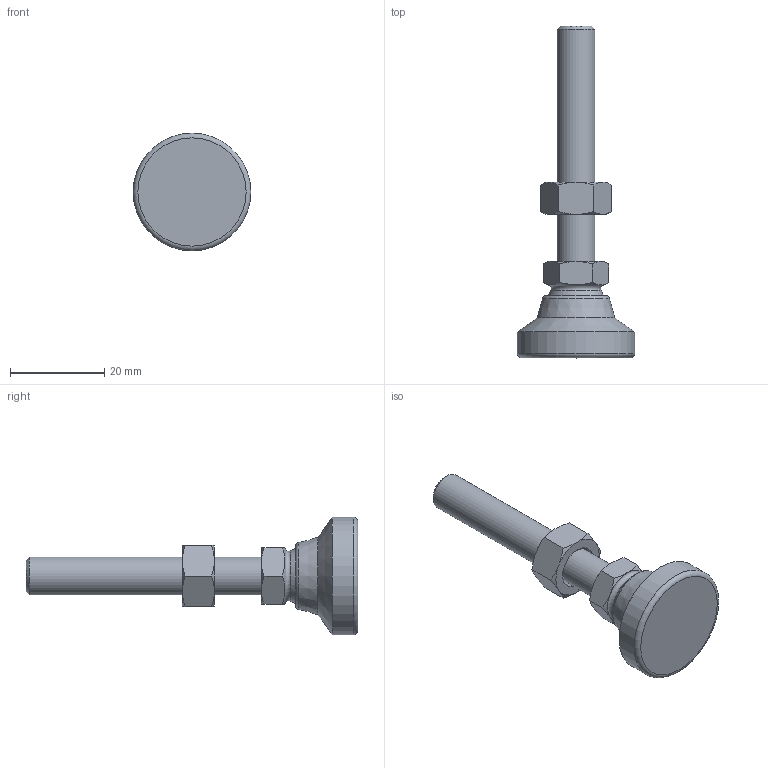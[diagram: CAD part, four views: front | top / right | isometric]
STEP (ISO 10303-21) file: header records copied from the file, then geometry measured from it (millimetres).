
FILE_DESCRIPTION( ( 'STEP AP214' ), ' ' );
FILE_NAME( 'O:/ganter_2015/teil_2/2_5/gn343_2/gn343_2_ks/Levelling foot with threaded stud GN 343.2-25-M8-50-KS-(0).stp', '2015-10-26T09:09:20', ( '' ), ( '' ), ' ', 'PARTsolutions', ' ' );
FILE_SCHEMA( ( 'AUTOMOTIVE_DESIGN { 1 0 10303 214 1 1 1 1 }' ) );
Length unit declared in the file: millimetre
Products named in the file (4): Levelling foot with threaded stud GN 343.2-25-M8-50-KS-(0); _Levelling foot with threaded stud GN 343.2-25-M8-50-KS-(0)_foot; _Gelenkfuss mit Schraube GN 343.2-25-M8-50-KS-(0)_screw; _GLevelling foot with threaded stud GN 343.2-25-M8-50-KS-(0)_nut
Assembly tree (3 placements, depth 2):
  Levelling foot with threaded stud GN 343.2-25-M8-50-KS-(0)
    _Levelling foot with threaded stud GN 343.2-25-M8-50-KS-(0)_foot
    _Gelenkfuss mit Schraube GN 343.2-25-M8-50-KS-(0)_screw
    _GLevelling foot with threaded stud GN 343.2-25-M8-50-KS-(0)_nut
Bounding box: 25 x 70.5 x 25 mm (x, y, z)
Volume: 8646.1 mm3; surface area: 4469.6 mm2
Topology: 3 solids, 3 shells, 50 faces, 107 edges, 63 vertices
Faces by surface type: cone 24, plane 18, torus 3, cylinder 3, sphere 2
Full cylindrical faces by diameter (mm): 6.647 x1, 8 x1, 25 x1
Entity records: 1858 total; most frequent: CARTESIAN_POINT 452, DIRECTION 188, ORIENTED_EDGE 176, AXIS2_PLACEMENT_3D 88, EDGE_CURVE 88, EDGE_LOOP 66, VERTEX_POINT 60, FACE_OUTER_BOUND 56
